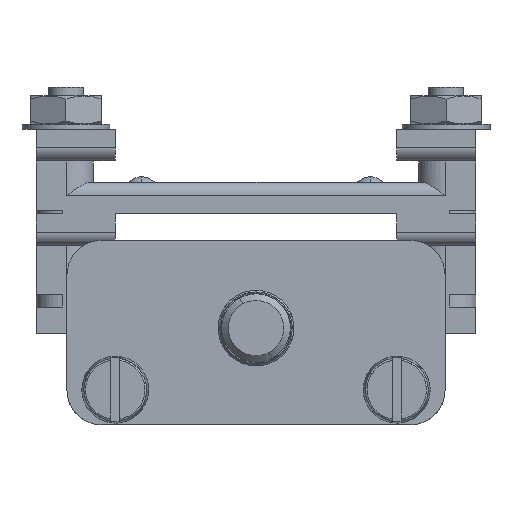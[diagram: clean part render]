
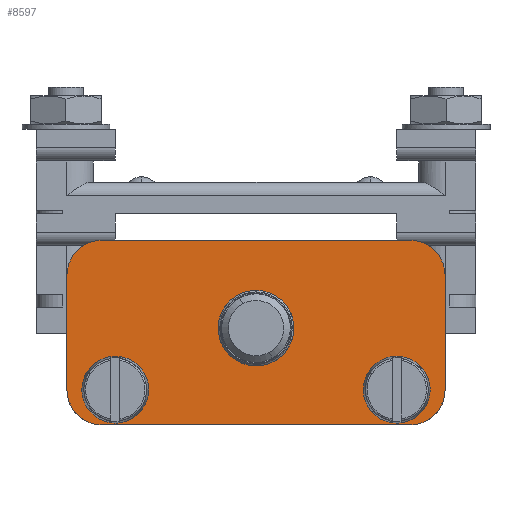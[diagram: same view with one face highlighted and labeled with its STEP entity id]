
A CAD part, left-side view. The second image highlights one B-rep face of the part: STEP entity #8597.
In plain terms, the highlighted planar face has unit normal (-1, 0, 0).
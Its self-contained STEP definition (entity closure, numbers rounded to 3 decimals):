
#8433=AXIS2_PLACEMENT_3D('Plane Axis2P3D',#8430,#8431,#8432) ;
#8437=AXIS2_PLACEMENT_3D('Circle Axis2P3D',#8435,#8436,$) ;
#8453=AXIS2_PLACEMENT_3D('Circle Axis2P3D',#8451,#8452,$) ;
#8467=AXIS2_PLACEMENT_3D('Circle Axis2P3D',#8465,#8466,$) ;
#8481=AXIS2_PLACEMENT_3D('Circle Axis2P3D',#8479,#8480,$) ;
#8503=AXIS2_PLACEMENT_3D('Circle Axis2P3D',#8501,#8502,$) ;
#8512=AXIS2_PLACEMENT_3D('Circle Axis2P3D',#8510,#8511,$) ;
#8521=AXIS2_PLACEMENT_3D('Circle Axis2P3D',#8519,#8520,$) ;
#8530=AXIS2_PLACEMENT_3D('Circle Axis2P3D',#8528,#8529,$) ;
#8430=CARTESIAN_POINT('Axis2P3D Location',(0.,0.,0.)) ;
#8435=CARTESIAN_POINT('Axis2P3D Location',(0.,8.75,-3.5)) ;
#8439=CARTESIAN_POINT('Vertex',(0.,8.75,-5.5)) ;
#8441=CARTESIAN_POINT('Vertex',(0.,10.75,-3.5)) ;
#8444=CARTESIAN_POINT('Line Origine',(0.,0.,-5.5)) ;
#8448=CARTESIAN_POINT('Vertex',(0.,-8.75,-5.5)) ;
#8451=CARTESIAN_POINT('Axis2P3D Location',(0.,-8.75,-3.5)) ;
#8455=CARTESIAN_POINT('Vertex',(0.,-10.75,-3.5)) ;
#8458=CARTESIAN_POINT('Line Origine',(0.,-10.75,-0.25)) ;
#8462=CARTESIAN_POINT('Vertex',(0.,-10.75,3.)) ;
#8465=CARTESIAN_POINT('Axis2P3D Location',(0.,-8.75,3.)) ;
#8469=CARTESIAN_POINT('Vertex',(0.,-8.75,5.)) ;
#8472=CARTESIAN_POINT('Line Origine',(0.,0.,5.)) ;
#8476=CARTESIAN_POINT('Vertex',(0.,8.75,5.)) ;
#8479=CARTESIAN_POINT('Axis2P3D Location',(0.,8.75,3.)) ;
#8483=CARTESIAN_POINT('Vertex',(0.,10.75,3.)) ;
#8486=CARTESIAN_POINT('Line Origine',(0.,10.75,-0.25)) ;
#8501=CARTESIAN_POINT('Axis2P3D Location',(0.,-8.,-3.5)) ;
#8505=CARTESIAN_POINT('Vertex',(0.,-8.911,-1.833)) ;
#8507=CARTESIAN_POINT('Vertex',(0.,-7.089,-5.167)) ;
#8510=CARTESIAN_POINT('Axis2P3D Location',(0.,-8.,-3.5)) ;
#8519=CARTESIAN_POINT('Axis2P3D Location',(0.,8.,-3.5)) ;
#8523=CARTESIAN_POINT('Vertex',(0.,7.089,-1.833)) ;
#8525=CARTESIAN_POINT('Vertex',(0.,8.911,-5.167)) ;
#8528=CARTESIAN_POINT('Axis2P3D Location',(0.,8.,-3.5)) ;
#8538=CARTESIAN_POINT('Control Point',(0.,-1.887,1.031)) ;
#8539=CARTESIAN_POINT('Control Point',(0.,-1.783,1.22)) ;
#8540=CARTESIAN_POINT('Control Point',(0.,-1.656,1.396)) ;
#8541=CARTESIAN_POINT('Control Point',(0.,-1.508,1.555)) ;
#8542=CARTESIAN_POINT('Control Point',(0.,-1.174,1.833)) ;
#8543=CARTESIAN_POINT('Control Point',(0.,-0.782,2.02)) ;
#8544=CARTESIAN_POINT('Control Point',(0.,-0.575,2.089)) ;
#8545=CARTESIAN_POINT('Control Point',(0.,-0.149,2.172)) ;
#8546=CARTESIAN_POINT('Control Point',(0.,0.285,2.148)) ;
#8547=CARTESIAN_POINT('Control Point',(0.,0.499,2.108)) ;
#8548=CARTESIAN_POINT('Control Point',(0.,0.913,1.976)) ;
#8549=CARTESIAN_POINT('Control Point',(0.,1.281,1.747)) ;
#8550=CARTESIAN_POINT('Control Point',(0.,1.45,1.609)) ;
#8551=CARTESIAN_POINT('Control Point',(0.,1.75,1.295)) ;
#8552=CARTESIAN_POINT('Control Point',(0.,1.963,0.916)) ;
#8553=CARTESIAN_POINT('Control Point',(0.,2.045,0.714)) ;
#8554=CARTESIAN_POINT('Control Point',(0.,2.157,0.295)) ;
#8555=CARTESIAN_POINT('Control Point',(0.,2.162,-0.14)) ;
#8556=CARTESIAN_POINT('Control Point',(0.,2.137,-0.356)) ;
#8557=CARTESIAN_POINT('Control Point',(0.,2.071,-0.624)) ;
#8558=CARTESIAN_POINT('Control Point',(0.,1.965,-0.876)) ;
#8559=CARTESIAN_POINT('Control Point',(0.,1.941,-0.928)) ;
#8560=CARTESIAN_POINT('Control Point',(0.,1.915,-0.98)) ;
#8561=CARTESIAN_POINT('Control Point',(0.,1.887,-1.031)) ;
#8562=CARTESIAN_POINT('Vertex',(0.,1.887,-1.031)) ;
#8564=CARTESIAN_POINT('Vertex',(0.,-1.887,1.031)) ;
#8568=CARTESIAN_POINT('Control Point',(0.,1.887,-1.031)) ;
#8569=CARTESIAN_POINT('Control Point',(0.,1.783,-1.22)) ;
#8570=CARTESIAN_POINT('Control Point',(0.,1.656,-1.396)) ;
#8571=CARTESIAN_POINT('Control Point',(0.,1.508,-1.555)) ;
#8572=CARTESIAN_POINT('Control Point',(0.,1.174,-1.833)) ;
#8573=CARTESIAN_POINT('Control Point',(0.,0.782,-2.02)) ;
#8574=CARTESIAN_POINT('Control Point',(0.,0.575,-2.089)) ;
#8575=CARTESIAN_POINT('Control Point',(0.,0.149,-2.172)) ;
#8576=CARTESIAN_POINT('Control Point',(0.,-0.285,-2.148)) ;
#8577=CARTESIAN_POINT('Control Point',(0.,-0.499,-2.108)) ;
#8578=CARTESIAN_POINT('Control Point',(0.,-0.913,-1.976)) ;
#8579=CARTESIAN_POINT('Control Point',(0.,-1.281,-1.747)) ;
#8580=CARTESIAN_POINT('Control Point',(0.,-1.45,-1.609)) ;
#8581=CARTESIAN_POINT('Control Point',(0.,-1.75,-1.295)) ;
#8582=CARTESIAN_POINT('Control Point',(0.,-1.963,-0.916)) ;
#8583=CARTESIAN_POINT('Control Point',(0.,-2.045,-0.714)) ;
#8584=CARTESIAN_POINT('Control Point',(0.,-2.157,-0.295)) ;
#8585=CARTESIAN_POINT('Control Point',(0.,-2.162,0.14)) ;
#8586=CARTESIAN_POINT('Control Point',(0.,-2.137,0.356)) ;
#8587=CARTESIAN_POINT('Control Point',(0.,-2.071,0.624)) ;
#8588=CARTESIAN_POINT('Control Point',(0.,-1.965,0.876)) ;
#8589=CARTESIAN_POINT('Control Point',(0.,-1.941,0.928)) ;
#8590=CARTESIAN_POINT('Control Point',(0.,-1.915,0.98)) ;
#8591=CARTESIAN_POINT('Control Point',(0.,-1.887,1.031)) ;
#8431=DIRECTION('Axis2P3D Direction',(1.,0.,0.)) ;
#8432=DIRECTION('Axis2P3D XDirection',(0.,1.,0.)) ;
#8436=DIRECTION('Axis2P3D Direction',(1.,0.,0.)) ;
#8445=DIRECTION('Vector Direction',(0.,-1.,0.)) ;
#8452=DIRECTION('Axis2P3D Direction',(1.,0.,0.)) ;
#8459=DIRECTION('Vector Direction',(0.,0.,-1.)) ;
#8466=DIRECTION('Axis2P3D Direction',(1.,0.,0.)) ;
#8473=DIRECTION('Vector Direction',(0.,1.,0.)) ;
#8480=DIRECTION('Axis2P3D Direction',(1.,0.,0.)) ;
#8487=DIRECTION('Vector Direction',(0.,0.,1.)) ;
#8502=DIRECTION('Axis2P3D Direction',(1.,0.,0.)) ;
#8511=DIRECTION('Axis2P3D Direction',(1.,0.,0.)) ;
#8520=DIRECTION('Axis2P3D Direction',(1.,0.,0.)) ;
#8529=DIRECTION('Axis2P3D Direction',(1.,0.,0.)) ;
#8446=VECTOR('Line Direction',#8445,1.) ;
#8460=VECTOR('Line Direction',#8459,1.) ;
#8474=VECTOR('Line Direction',#8473,1.) ;
#8488=VECTOR('Line Direction',#8487,1.) ;
#8492=ORIENTED_EDGE('',*,*,#8443,.F.) ;
#8493=ORIENTED_EDGE('',*,*,#8450,.F.) ;
#8494=ORIENTED_EDGE('',*,*,#8457,.F.) ;
#8495=ORIENTED_EDGE('',*,*,#8464,.F.) ;
#8496=ORIENTED_EDGE('',*,*,#8471,.F.) ;
#8497=ORIENTED_EDGE('',*,*,#8478,.F.) ;
#8498=ORIENTED_EDGE('',*,*,#8485,.F.) ;
#8499=ORIENTED_EDGE('',*,*,#8490,.F.) ;
#8516=ORIENTED_EDGE('',*,*,#8509,.T.) ;
#8517=ORIENTED_EDGE('',*,*,#8514,.T.) ;
#8534=ORIENTED_EDGE('',*,*,#8527,.T.) ;
#8535=ORIENTED_EDGE('',*,*,#8532,.T.) ;
#8594=ORIENTED_EDGE('',*,*,#8566,.T.) ;
#8595=ORIENTED_EDGE('',*,*,#8592,.T.) ;
#8518=FACE_BOUND('',#8515,.T.) ;
#8536=FACE_BOUND('',#8533,.T.) ;
#8596=FACE_BOUND('',#8593,.T.) ;
#8597=ADVANCED_FACE('RSCFL4OM',(#8500,#8518,#8536,#8596),#8434,.F.) ;
#8537=B_SPLINE_CURVE_WITH_KNOTS('',5,(#8538,#8539,#8540,#8541,#8542,#8543,#8544,#8545,#8546,#8547,#8548,#8549,#8550,#8551,#8552,#8553,#8554,#8555,#8556,#8557,#8558,#8559,#8560,#8561),.UNSPECIFIED.,.F.,.U.,(6,3,3,3,3,3,3,6),(0.,1.528,3.055,4.583,6.111,7.638,9.166,9.576),.UNSPECIFIED.) ;
#8567=B_SPLINE_CURVE_WITH_KNOTS('',5,(#8568,#8569,#8570,#8571,#8572,#8573,#8574,#8575,#8576,#8577,#8578,#8579,#8580,#8581,#8582,#8583,#8584,#8585,#8586,#8587,#8588,#8589,#8590,#8591),.UNSPECIFIED.,.F.,.U.,(6,3,3,3,3,3,3,6),(0.,1.528,3.055,4.583,6.111,7.638,9.166,9.576),.UNSPECIFIED.) ;
#8438=CIRCLE('generated circle',#8437,2.) ;
#8454=CIRCLE('generated circle',#8453,2.) ;
#8468=CIRCLE('generated circle',#8467,2.) ;
#8482=CIRCLE('generated circle',#8481,2.) ;
#8504=CIRCLE('generated circle',#8503,1.9) ;
#8513=CIRCLE('generated circle',#8512,1.9) ;
#8522=CIRCLE('generated circle',#8521,1.9) ;
#8531=CIRCLE('generated circle',#8530,1.9) ;
#8443=EDGE_CURVE('',#8440,#8442,#8438,.T.) ;
#8450=EDGE_CURVE('',#8449,#8440,#8447,.F.) ;
#8457=EDGE_CURVE('',#8456,#8449,#8454,.T.) ;
#8464=EDGE_CURVE('',#8463,#8456,#8461,.T.) ;
#8471=EDGE_CURVE('',#8470,#8463,#8468,.T.) ;
#8478=EDGE_CURVE('',#8477,#8470,#8475,.F.) ;
#8485=EDGE_CURVE('',#8484,#8477,#8482,.T.) ;
#8490=EDGE_CURVE('',#8442,#8484,#8489,.T.) ;
#8509=EDGE_CURVE('',#8506,#8508,#8504,.T.) ;
#8514=EDGE_CURVE('',#8508,#8506,#8513,.T.) ;
#8527=EDGE_CURVE('',#8524,#8526,#8522,.T.) ;
#8532=EDGE_CURVE('',#8526,#8524,#8531,.T.) ;
#8566=EDGE_CURVE('',#8563,#8565,#8537,.F.) ;
#8592=EDGE_CURVE('',#8565,#8563,#8567,.F.) ;
#8491=EDGE_LOOP('',(#8492,#8493,#8494,#8495,#8496,#8497,#8498,#8499)) ;
#8515=EDGE_LOOP('',(#8516,#8517)) ;
#8533=EDGE_LOOP('',(#8534,#8535)) ;
#8593=EDGE_LOOP('',(#8594,#8595)) ;
#8500=FACE_OUTER_BOUND('',#8491,.T.) ;
#8447=LINE('Line',#8444,#8446) ;
#8461=LINE('Line',#8458,#8460) ;
#8475=LINE('Line',#8472,#8474) ;
#8489=LINE('Line',#8486,#8488) ;
#8434=PLANE('',#8433) ;
#8440=VERTEX_POINT('',#8439) ;
#8442=VERTEX_POINT('',#8441) ;
#8449=VERTEX_POINT('',#8448) ;
#8456=VERTEX_POINT('',#8455) ;
#8463=VERTEX_POINT('',#8462) ;
#8470=VERTEX_POINT('',#8469) ;
#8477=VERTEX_POINT('',#8476) ;
#8484=VERTEX_POINT('',#8483) ;
#8506=VERTEX_POINT('',#8505) ;
#8508=VERTEX_POINT('',#8507) ;
#8524=VERTEX_POINT('',#8523) ;
#8526=VERTEX_POINT('',#8525) ;
#8563=VERTEX_POINT('',#8562) ;
#8565=VERTEX_POINT('',#8564) ;
